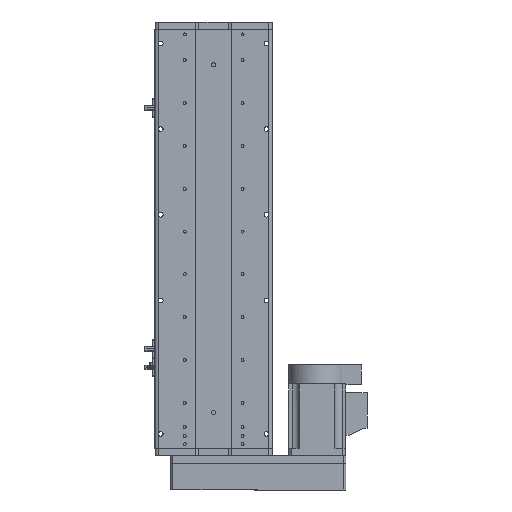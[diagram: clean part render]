
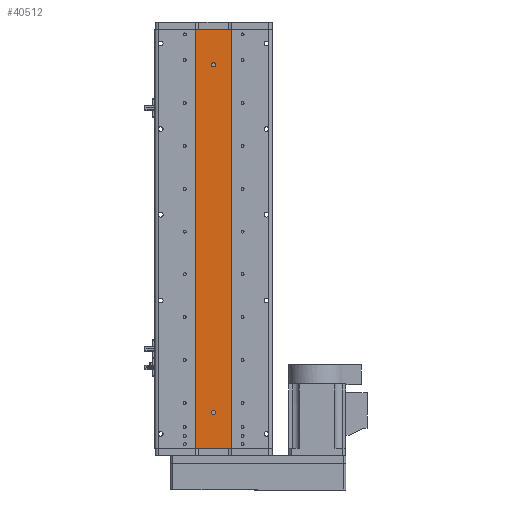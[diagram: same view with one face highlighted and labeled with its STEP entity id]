
A CAD part, front view. The second image highlights one B-rep face of the part: STEP entity #40512.
In plain terms, the highlighted planar face has unit normal (0, -1, 0).
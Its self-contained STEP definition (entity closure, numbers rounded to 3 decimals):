
#1179 = CARTESIAN_POINT ( 'NONE',  ( 25., 1., 293.5 ) ) ;
#3174 = ORIENTED_EDGE ( 'NONE', *, *, #53355, .F. ) ;
#4112 = CARTESIAN_POINT ( 'NONE',  ( 25., 1., 293.5 ) ) ;
#4640 = FACE_BOUND ( 'NONE', #38353, .T. ) ;
#6321 = AXIS2_PLACEMENT_3D ( 'NONE', #40465, #13557, #44993 ) ;
#8490 = DIRECTION ( 'NONE',  ( 0., 1., 0. ) ) ;
#9793 = EDGE_CURVE ( 'NONE', #33291, #45188, #38202, .T. ) ;
#10652 = DIRECTION ( 'NONE',  ( 0., 0., -1. ) ) ;
#11616 = VECTOR ( 'NONE', #47020, 1000. ) ;
#13217 = AXIS2_PLACEMENT_3D ( 'NONE', #13493, #44909, #17985 ) ;
#13493 = CARTESIAN_POINT ( 'NONE',  ( 0., 1., 243.5 ) ) ;
#13557 = DIRECTION ( 'NONE',  ( 0., 1., 0. ) ) ;
#13584 = CIRCLE ( 'NONE', #13217, 3. ) ;
#13785 = VECTOR ( 'NONE', #26061, 1000. ) ;
#14062 = LINE ( 'NONE', #15178, #36537 ) ;
#14372 = CARTESIAN_POINT ( 'NONE',  ( 0., 1., -240.5 ) ) ;
#14681 = AXIS2_PLACEMENT_3D ( 'NONE', #4112, #58218, #31264 ) ;
#14906 = CIRCLE ( 'NONE', #36642, 3. ) ;
#15178 = CARTESIAN_POINT ( 'NONE',  ( 25., 1., 293.5 ) ) ;
#16208 = EDGE_CURVE ( 'NONE', #54644, #51805, #56179, .T. ) ;
#16233 = CARTESIAN_POINT ( 'NONE',  ( -25., 1., 293.5 ) ) ;
#16672 = FACE_OUTER_BOUND ( 'NONE', #46211, .T. ) ;
#17985 = DIRECTION ( 'NONE',  ( 0., 0., 1. ) ) ;
#18446 = ORIENTED_EDGE ( 'NONE', *, *, #56517, .T. ) ;
#18544 = EDGE_CURVE ( 'NONE', #31575, #24469, #24994, .T. ) ;
#21482 = DIRECTION ( 'NONE',  ( 0., 1., 0. ) ) ;
#21966 = CARTESIAN_POINT ( 'NONE',  ( 25., 1., -293.5 ) ) ;
#24469 = VERTEX_POINT ( 'NONE', #21966 ) ;
#24742 = CARTESIAN_POINT ( 'NONE',  ( 25., 1., 293.5 ) ) ;
#24994 = LINE ( 'NONE', #42504, #11616 ) ;
#25742 = ORIENTED_EDGE ( 'NONE', *, *, #18544, .T. ) ;
#26061 = DIRECTION ( 'NONE',  ( 0., 0., -1. ) ) ;
#26140 = EDGE_CURVE ( 'NONE', #33291, #31575, #37643, .T. ) ;
#26765 = PLANE ( 'NONE',  #14681 ) ;
#27809 = ORIENTED_EDGE ( 'NONE', *, *, #35669, .T. ) ;
#28595 = FACE_BOUND ( 'NONE', #53785, .T. ) ;
#31264 = DIRECTION ( 'NONE',  ( 0., 0., 1. ) ) ;
#31575 = VERTEX_POINT ( 'NONE', #33212 ) ;
#33212 = CARTESIAN_POINT ( 'NONE',  ( -25., 1., -293.5 ) ) ;
#33291 = VERTEX_POINT ( 'NONE', #16233 ) ;
#34150 = VERTEX_POINT ( 'NONE', #14372 ) ;
#34264 = ORIENTED_EDGE ( 'NONE', *, *, #16208, .T. ) ;
#35093 = CARTESIAN_POINT ( 'NONE',  ( -25., 1., 293.5 ) ) ;
#35413 = CARTESIAN_POINT ( 'NONE',  ( 0., 1., 240.5 ) ) ;
#35429 = CARTESIAN_POINT ( 'NONE',  ( 0., 1., -243.5 ) ) ;
#35669 = EDGE_CURVE ( 'NONE', #34150, #44653, #53775, .T. ) ;
#36537 = VECTOR ( 'NONE', #10652, 1000. ) ;
#36642 = AXIS2_PLACEMENT_3D ( 'NONE', #35429, #8490, #39963 ) ;
#37643 = LINE ( 'NONE', #35093, #13785 ) ;
#38202 = LINE ( 'NONE', #24742, #48755 ) ;
#38353 = EDGE_LOOP ( 'NONE', ( #50754, #27809 ) ) ;
#39963 = DIRECTION ( 'NONE',  ( 0., 0., 1. ) ) ;
#40465 = CARTESIAN_POINT ( 'NONE',  ( 0., 1., 243.5 ) ) ;
#40512 = ADVANCED_FACE ( 'NONE', ( #4640, #28595, #16672 ), #26765, .F. ) ;
#42504 = CARTESIAN_POINT ( 'NONE',  ( 25., 1., -293.5 ) ) ;
#42825 = DIRECTION ( 'NONE',  ( 1., 0., 0. ) ) ;
#44019 = ORIENTED_EDGE ( 'NONE', *, *, #9793, .F. ) ;
#44653 = VERTEX_POINT ( 'NONE', #55920 ) ;
#44909 = DIRECTION ( 'NONE',  ( 0., 1., 0. ) ) ;
#44993 = DIRECTION ( 'NONE',  ( 0., 0., 1. ) ) ;
#45188 = VERTEX_POINT ( 'NONE', #1179 ) ;
#46211 = EDGE_LOOP ( 'NONE', ( #25742, #3174, #44019, #53555 ) ) ;
#47020 = DIRECTION ( 'NONE',  ( 1., 0., 0. ) ) ;
#47685 = CARTESIAN_POINT ( 'NONE',  ( 0., 1., 246.5 ) ) ;
#48380 = CARTESIAN_POINT ( 'NONE',  ( 0., 1., -243.5 ) ) ;
#48755 = VECTOR ( 'NONE', #42825, 1000. ) ;
#50207 = EDGE_CURVE ( 'NONE', #44653, #34150, #14906, .T. ) ;
#50754 = ORIENTED_EDGE ( 'NONE', *, *, #50207, .T. ) ;
#51805 = VERTEX_POINT ( 'NONE', #35413 ) ;
#52886 = DIRECTION ( 'NONE',  ( 0., 0., 1. ) ) ;
#53355 = EDGE_CURVE ( 'NONE', #45188, #24469, #14062, .T. ) ;
#53555 = ORIENTED_EDGE ( 'NONE', *, *, #26140, .T. ) ;
#53775 = CIRCLE ( 'NONE', #57107, 3. ) ;
#53785 = EDGE_LOOP ( 'NONE', ( #18446, #34264 ) ) ;
#54644 = VERTEX_POINT ( 'NONE', #47685 ) ;
#55920 = CARTESIAN_POINT ( 'NONE',  ( 0., 1., -246.5 ) ) ;
#56179 = CIRCLE ( 'NONE', #6321, 3. ) ;
#56517 = EDGE_CURVE ( 'NONE', #51805, #54644, #13584, .T. ) ;
#57107 = AXIS2_PLACEMENT_3D ( 'NONE', #48380, #21482, #52886 ) ;
#58218 = DIRECTION ( 'NONE',  ( 0., 1., 0. ) ) ;
